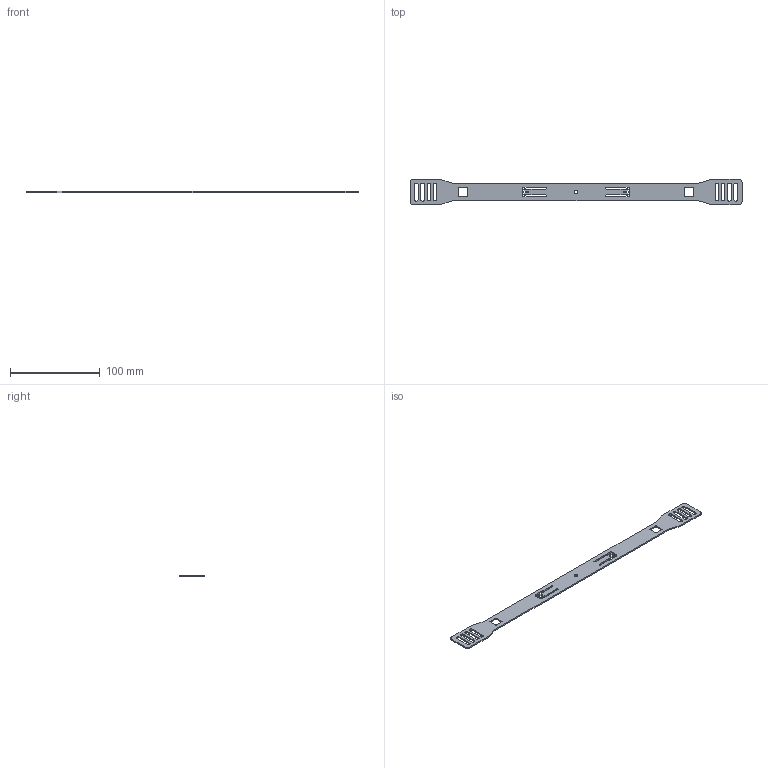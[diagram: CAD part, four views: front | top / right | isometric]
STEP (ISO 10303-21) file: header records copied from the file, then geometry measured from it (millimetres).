
FILE_DESCRIPTION(/* description */ (''),/* implementation_level */ '2;1');
FILE_NAME(/* name */ 'FRAME_LASERCUT_Rev02.stp',/* time_stamp */ '2020-04-07T04:09:15-07:00',/* author */ (''),/* organization */ (''),/* preprocessor_version */ 'ST-DEVELOPER v16.7',/* originating_system */ 'SIEMENS PLM Software NX 1892',/* authorisation */ '');
FILE_SCHEMA (('AUTOMOTIVE_DESIGN { 1 0 10303 214 3 1 1 1 }'));
Length unit declared in the file: millimetre
Products named in the file (1): ppp352CDE41er94
Bounding box: 370 x 28 x 1.6 mm (x, y, z)
Volume: 11093.4 mm3; surface area: 16289.2 mm2
Topology: 1 solids, 1 shells, 158 faces, 468 edges, 312 vertices
Faces by surface type: plane 87, cylinder 71
Full cylindrical faces by diameter (mm): 4 x1
Entity records: 5393 total; most frequent: CARTESIAN_POINT 938, ORIENTED_EDGE 934, DIRECTION 927, EDGE_CURVE 467, LINE 325, VECTOR 325, VERTEX_POINT 312, AXIS2_PLACEMENT_3D 301
